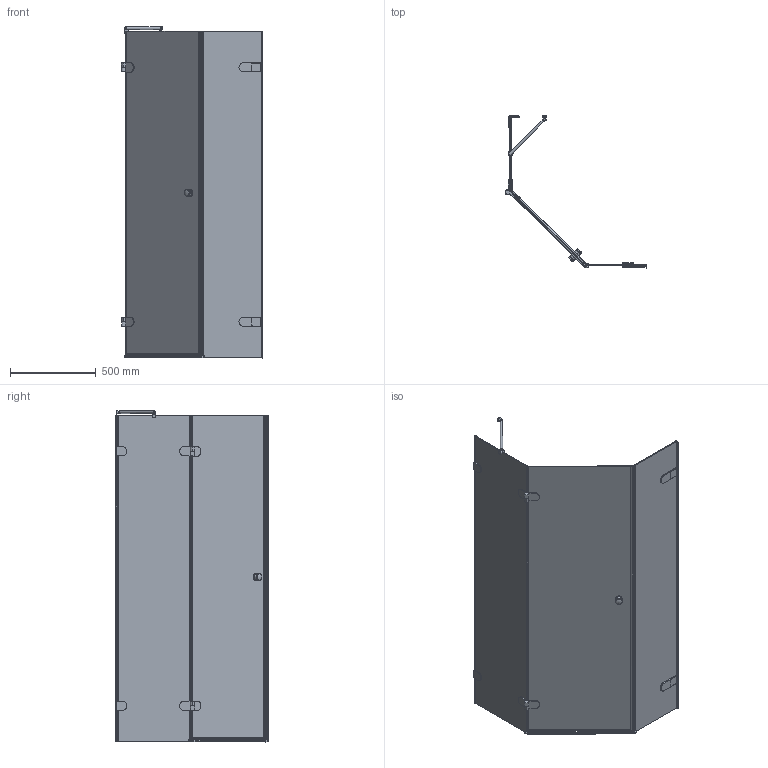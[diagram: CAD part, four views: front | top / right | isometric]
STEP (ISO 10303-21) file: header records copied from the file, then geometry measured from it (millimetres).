
FILE_DESCRIPTION(/* description */ (''),/* implementation_level */ '2;1');
FILE_NAME(/* name */ 'E:\Работа\Сергей\Душевые кабинки\! Работа\fest\LUX FESTT GK-001-2522P\LUX FESTT GK-001-2522P левая модель\LUX FESTT GK-001-2522P ЛЕВАЯ-3D.stp',/* time_stamp */ '2018-03-18T20:30:46+03:00',/* author */ ('PC'),/* organization */ (''),/* preprocessor_version */ 'ST-DEVELOPER v15.2',/* originating_system */ 'Autodesk Inventor 2014',/* authorisation */ '');
FILE_SCHEMA (('AUTOMOTIVE_DESIGN { 1 0 10303 214 3 1 1 }'));
Length unit declared in the file: millimetre
Products named in the file (1): LUX FESTT GK-001-2522P ЛЕВАЯ-3D
Bounding box: 825.46 x 885.71 x 1931.53 mm (x, y, z)
Volume: 16930007.4 mm3; surface area: 5870588.6 mm2
Topology: 18 solids, 18 shells, 634 faces, 1710 edges, 1115 vertices
Faces by surface type: plane 431, cylinder 163, torus 17, bspline 14, sphere 7, cone 2
Full cylindrical faces by diameter (mm): 15 x1, 20 x2, 26 x1, 35 x2, 38 x4, 40 x2
Entity records: 20793 total; most frequent: CARTESIAN_POINT 4199, ORIENTED_EDGE 3344, DIRECTION 3245, EDGE_CURVE 1670, LINE 1215, VECTOR 1215, VERTEX_POINT 1104, AXIS2_PLACEMENT_3D 1015
